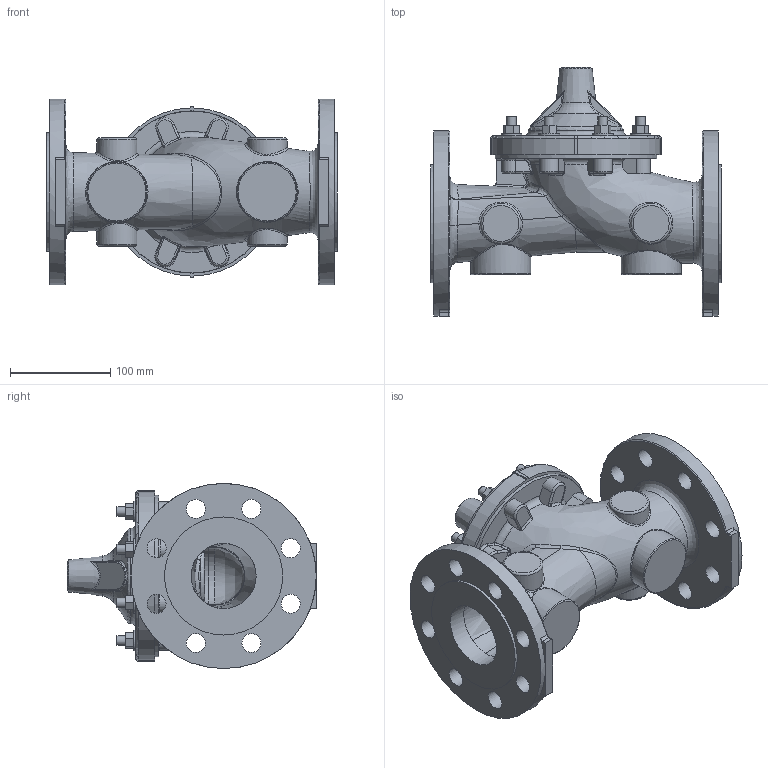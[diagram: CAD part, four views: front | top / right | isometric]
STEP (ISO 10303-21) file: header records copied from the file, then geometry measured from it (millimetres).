
FILE_DESCRIPTION(/* description */ (''),/* implementation_level */ '2;1');
FILE_NAME(/* name */ 'G:\Doc_Liberes\SymbolesCAD\Modeles_3D\FichierSTP\VanneDeBase\NGE065-40RF.stp',/* time_stamp */ '2023-08-17T11:47:58+02:00',/* author */ ('theo'),/* organization */ (''),/* preprocessor_version */ 'ST-DEVELOPER v18.1',/* originating_system */ 'Autodesk Inventor 2022',/* authorisation */ '');
FILE_SCHEMA (('AUTOMOTIVE_DESIGN { 1 0 10303 214 3 1 1 }'));
Products named in the file (1): NGE065_Simplifier_1
Bounding box: 290 x 249.15 x 185 mm (x, y, z)
Volume: 1936603.1 mm3; surface area: 390337.6 mm2
Topology: 1 solids, 1 shells, 1080 faces, 2848 edges, 1815 vertices
Faces by surface type: plane 456, bspline 229, cone 177, cylinder 126, torus 90, sphere 2
Full cylindrical faces by diameter (mm): 9.525 x16, 15.81 x1, 19 x16, 20.637 x8, 27 x1, 40 x4, 58.6 x1, 60 x2, 65 x2, 76 x1, 78.9 x2, 118 x2, 161.75 x1, 162 x1, 185 x2
Entity records: 46077 total; most frequent: CARTESIAN_POINT 21607, ORIENTED_EDGE 5660, DIRECTION 4277, EDGE_CURVE 2830, VERTEX_POINT 1816, AXIS2_PLACEMENT_3D 1604, EDGE_LOOP 1191, FACE_OUTER_BOUND 1077
